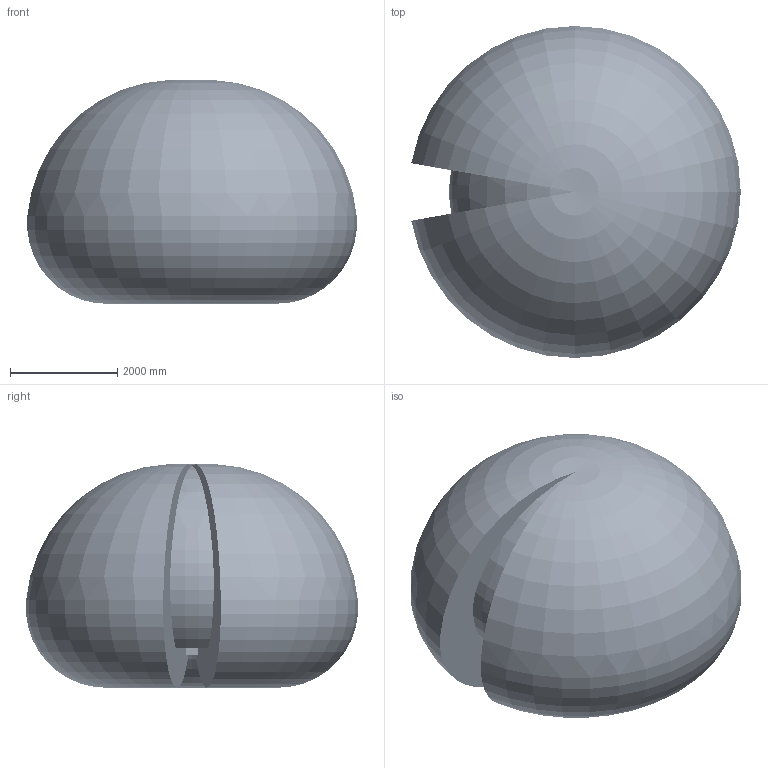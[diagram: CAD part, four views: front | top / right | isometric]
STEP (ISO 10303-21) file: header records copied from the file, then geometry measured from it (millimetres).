
FILE_DESCRIPTION (( 'STEP AP214' ), '1' );
FILE_NAME ('IRB6720-LID-SW_150kg-310_OC_01_ASM_CAD.step', '2026-05-26T07:53:40', ( '' ), ( '' ), 'SwSTEP 2.0', 'SolidWorks 2024', '' );
FILE_SCHEMA (( 'AUTOMOTIVE_DESIGN' ));
Length unit declared in the file: millimetre
Products named in the file (20): IRB6720-LID_150kg-310_OC_00_Working-space; IRB6720-LID_150kg-310_OC_00_LINK03_CAD; IRB6720-LID_150kg-310_OC_00_LINK06_CABLE; IRB6720-LID_150kg-310_OC_00_LINK05_CABLE; IRB6720-LID_150kg-310_OC_01_LINK05_CAD; IRB6720-LID-SW_150kg-310_OC_00_LINK01_CABLE; IRB6720-LID_150kg-310_OC_00_LINK01_CAD; IRB6720-LID-SW_150kg-310_OC_00_LINK02_CABLE; IRB6720-LID-SW_150kg-310_OC_01_ASM_CAD; IRB6720-LID-SW_150kg-310_OC_00_LINK03a_CABLE; IRB6720-LID-SW_150kg-310_OC_00_LINK03b_CABLE; IRB6720-LID_150kg-310_OC_00_LINK02_CAD; IRB6720-LID_150kg-310_OC_00_LINK02m_CABLE; IRB6720-LID_150kg-310_OC_00_CYL_CAD; IRB6720-LID_150kg-310_OC_00_BASE_CAD; IRB6720-LID_150kg-310_OC_00_LINK01m_CABLE; IRB6720-LID_150kg-310_OC_00_ROD_CAD; IRB6720-LID_150kg-310_OC_00_LINK04_CABLE; IRB6720-LID_150kg-310_OC_00_LINK03m_CABLE; IRB6720-LID_150kg-310_OC_00_LINK04_CAD
Assembly tree (19 placements, depth 2):
  IRB6720-LID-SW_150kg-310_OC_01_ASM_CAD
    IRB6720-LID_150kg-310_OC_00_BASE_CAD
    IRB6720-LID_150kg-310_OC_00_CYL_CAD
    IRB6720-LID_150kg-310_OC_00_LINK01_CAD
    IRB6720-LID_150kg-310_OC_00_ROD_CAD
    IRB6720-LID_150kg-310_OC_00_LINK02_CAD
    IRB6720-LID_150kg-310_OC_00_LINK03_CAD
    IRB6720-LID_150kg-310_OC_00_LINK04_CAD
    IRB6720-LID_150kg-310_OC_01_LINK05_CAD
    IRB6720-LID_150kg-310_OC_00_LINK06_CABLE
    IRB6720-LID-SW_150kg-310_OC_00_LINK01_CABLE
    IRB6720-LID-SW_150kg-310_OC_00_LINK02_CABLE
    IRB6720-LID-SW_150kg-310_OC_00_LINK03a_CABLE
    IRB6720-LID-SW_150kg-310_OC_00_LINK03b_CABLE
    IRB6720-LID_150kg-310_OC_00_LINK04_CABLE
    IRB6720-LID_150kg-310_OC_00_LINK05_CABLE
    IRB6720-LID_150kg-310_OC_00_LINK01m_CABLE
    IRB6720-LID_150kg-310_OC_00_LINK02m_CABLE
    IRB6720-LID_150kg-310_OC_00_LINK03m_CABLE
    IRB6720-LID_150kg-310_OC_00_Working-space
Bounding box: 6143.15 x 6190.17 x 4168.46 mm (x, y, z)
Volume: 83544150224.2 mm3; surface area: 141203647 mm2
Topology: 20 solids, 37 shells, 9891 faces, 25195 edges, 16001 vertices
Faces by surface type: plane 4577, cylinder 2624, cone 1352, bspline 854, torus 433, sphere 51
Entity records: 620453 total; most frequent: CARTESIAN_POINT 290568, ORIENTED_EDGE 50046, DIRECTION 44905, EDGE_CURVE 25023, AXIS2_PLACEMENT_3D 16475, VERTEX_POINT 15999, VECTOR 11955, LINE 11955
